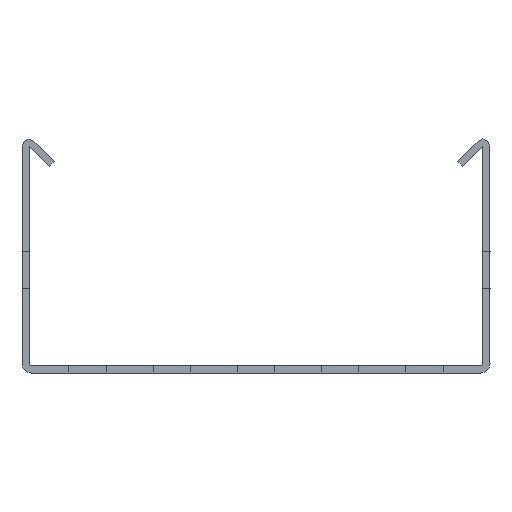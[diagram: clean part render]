
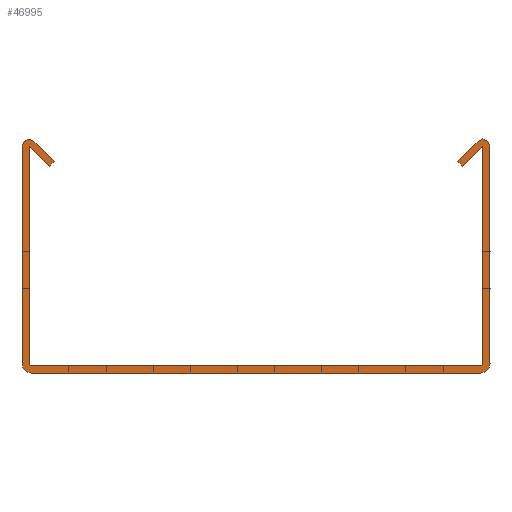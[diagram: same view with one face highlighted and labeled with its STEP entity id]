
A CAD part, front view. The second image highlights one B-rep face of the part: STEP entity #46995.
In plain terms, the highlighted planar face has unit normal (0, -1, 0).
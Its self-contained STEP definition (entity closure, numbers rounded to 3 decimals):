
#1489=CIRCLE('',#49616,0.5);
#2261=CIRCLE('',#50390,0.5);
#2439=CIRCLE('',#50573,1.5);
#2617=CIRCLE('',#50753,2.);
#3389=CIRCLE('',#51527,2.);
#3567=CIRCLE('',#51707,1.5);
#4868=FACE_OUTER_BOUND('',#8407,.T.);
#8407=EDGE_LOOP('',(#36805,#36806,#36807,#36808,#36809,#36810,#36811,#36812,
#36813,#36814,#36815,#36816,#36817,#36818,#36819,#36820,#36821,#36822));
#10831=LINE('',#68612,#15496);
#10835=LINE('',#68620,#15500);
#10838=LINE('',#68626,#15503);
#10841=LINE('',#68632,#15506);
#11021=LINE('',#69348,#15686);
#11773=LINE('',#72396,#16438);
#11952=LINE('',#73106,#16617);
#11955=LINE('',#73112,#16620);
#11958=LINE('',#73118,#16623);
#11962=LINE('',#73130,#16627);
#12142=LINE('',#73846,#16807);
#12894=LINE('',#76894,#17559);
#15496=VECTOR('',#54544,10.);
#15500=VECTOR('',#54550,10.);
#15503=VECTOR('',#54555,10.);
#15506=VECTOR('',#54560,10.);
#15686=VECTOR('',#55100,10.);
#16438=VECTOR('',#57400,10.);
#16617=VECTOR('',#57933,10.);
#16620=VECTOR('',#57938,10.);
#16623=VECTOR('',#57943,10.);
#16627=VECTOR('',#57955,10.);
#16807=VECTOR('',#58495,10.);
#17559=VECTOR('',#60795,10.);
#20162=VERTEX_POINT('',#68610);
#20163=VERTEX_POINT('',#68611);
#20166=VERTEX_POINT('',#68619);
#20168=VERTEX_POINT('',#68625);
#20170=VERTEX_POINT('',#68631);
#20524=VERTEX_POINT('',#69341);
#20526=VERTEX_POINT('',#69347);
#22046=VERTEX_POINT('',#72389);
#22048=VERTEX_POINT('',#72395);
#22402=VERTEX_POINT('',#73105);
#22404=VERTEX_POINT('',#73111);
#22406=VERTEX_POINT('',#73117);
#22408=VERTEX_POINT('',#73123);
#22410=VERTEX_POINT('',#73129);
#22764=VERTEX_POINT('',#73839);
#22766=VERTEX_POINT('',#73845);
#24286=VERTEX_POINT('',#76887);
#24288=VERTEX_POINT('',#76893);
#24945=EDGE_CURVE('',#20162,#20163,#10831,.T.);
#24949=EDGE_CURVE('',#20163,#20166,#10835,.T.);
#24952=EDGE_CURVE('',#20168,#20166,#10838,.T.);
#24955=EDGE_CURVE('',#20168,#20170,#10841,.T.);
#25310=EDGE_CURVE('',#20170,#20524,#1489,.T.);
#25313=EDGE_CURVE('',#20526,#20524,#11021,.T.);
#26834=EDGE_CURVE('',#20526,#22046,#2261,.T.);
#26837=EDGE_CURVE('',#22048,#22046,#11773,.T.);
#27192=EDGE_CURVE('',#22048,#22402,#11952,.T.);
#27195=EDGE_CURVE('',#22404,#22402,#11955,.T.);
#27198=EDGE_CURVE('',#22406,#22404,#11958,.T.);
#27201=EDGE_CURVE('',#22408,#22406,#2439,.T.);
#27204=EDGE_CURVE('',#22408,#22410,#11962,.T.);
#27559=EDGE_CURVE('',#22764,#22410,#2617,.T.);
#27562=EDGE_CURVE('',#22764,#22766,#12142,.T.);
#29083=EDGE_CURVE('',#24286,#22766,#3389,.T.);
#29086=EDGE_CURVE('',#24288,#24286,#12894,.T.);
#29441=EDGE_CURVE('',#20162,#24288,#3567,.T.);
#36805=ORIENTED_EDGE('',*,*,#29441,.F.);
#36806=ORIENTED_EDGE('',*,*,#24945,.T.);
#36807=ORIENTED_EDGE('',*,*,#24949,.T.);
#36808=ORIENTED_EDGE('',*,*,#24952,.F.);
#36809=ORIENTED_EDGE('',*,*,#24955,.T.);
#36810=ORIENTED_EDGE('',*,*,#25310,.T.);
#36811=ORIENTED_EDGE('',*,*,#25313,.F.);
#36812=ORIENTED_EDGE('',*,*,#26834,.T.);
#36813=ORIENTED_EDGE('',*,*,#26837,.F.);
#36814=ORIENTED_EDGE('',*,*,#27192,.T.);
#36815=ORIENTED_EDGE('',*,*,#27195,.F.);
#36816=ORIENTED_EDGE('',*,*,#27198,.F.);
#36817=ORIENTED_EDGE('',*,*,#27201,.F.);
#36818=ORIENTED_EDGE('',*,*,#27204,.T.);
#36819=ORIENTED_EDGE('',*,*,#27559,.F.);
#36820=ORIENTED_EDGE('',*,*,#27562,.T.);
#36821=ORIENTED_EDGE('',*,*,#29083,.F.);
#36822=ORIENTED_EDGE('',*,*,#29086,.F.);
#45774=PLANE('',#51710);
#46995=ADVANCED_FACE('',(#4868),#45774,.F.);
#49616=AXIS2_PLACEMENT_3D('',#69342,#55093,#55094);
#50390=AXIS2_PLACEMENT_3D('',#72390,#57393,#57394);
#50573=AXIS2_PLACEMENT_3D('',#73124,#57948,#57949);
#50753=AXIS2_PLACEMENT_3D('',#73840,#58488,#58489);
#51527=AXIS2_PLACEMENT_3D('',#76888,#60788,#60789);
#51707=AXIS2_PLACEMENT_3D('',#77603,#61328,#61329);
#51710=AXIS2_PLACEMENT_3D('',#77606,#61334,#61335);
#54544=DIRECTION('',(-0.707,0.,-0.707));
#54550=DIRECTION('',(0.707,0.,-0.707));
#54555=DIRECTION('',(-0.707,0.,-0.707));
#54560=DIRECTION('',(0.,0.,-1.));
#55093=DIRECTION('center_axis',(0.,1.,0.));
#55094=DIRECTION('ref_axis',(1.,0.,0.));
#55100=DIRECTION('',(1.,0.,0.));
#57393=DIRECTION('center_axis',(0.,1.,0.));
#57394=DIRECTION('ref_axis',(0.,0.,-1.));
#57400=DIRECTION('',(0.,0.,-1.));
#57933=DIRECTION('',(0.707,0.,-0.707));
#57938=DIRECTION('',(-0.707,0.,-0.707));
#57943=DIRECTION('',(0.707,0.,-0.707));
#57948=DIRECTION('center_axis',(0.,1.,0.));
#57949=DIRECTION('ref_axis',(-1.,0.,0.));
#57955=DIRECTION('',(0.,0.,-1.));
#58488=DIRECTION('center_axis',(0.,1.,0.));
#58489=DIRECTION('ref_axis',(0.,0.,-1.));
#58495=DIRECTION('',(1.,0.,0.));
#60788=DIRECTION('center_axis',(0.,1.,0.));
#60789=DIRECTION('ref_axis',(1.,0.,0.));
#60795=DIRECTION('',(0.,0.,-1.));
#61328=DIRECTION('center_axis',(0.,1.,0.));
#61329=DIRECTION('ref_axis',(-0.707,0.,0.707));
#61334=DIRECTION('center_axis',(0.,1.,0.));
#61335=DIRECTION('ref_axis',(1.,0.,0.));
#68610=CARTESIAN_POINT('',(97.439,0.,49.561));
#68611=CARTESIAN_POINT('',(93.101,0.,45.222));
#68612=CARTESIAN_POINT('',(97.439,0.,49.561));
#68619=CARTESIAN_POINT('',(94.161,0.,44.161));
#68620=CARTESIAN_POINT('',(93.101,0.,45.222));
#68625=CARTESIAN_POINT('',(98.5,0.,48.5));
#68626=CARTESIAN_POINT('',(98.5,0.,48.5));
#68631=CARTESIAN_POINT('',(98.5,0.,2.));
#68632=CARTESIAN_POINT('',(98.5,0.,48.5));
#69341=CARTESIAN_POINT('',(98.,0.,1.5));
#69342=CARTESIAN_POINT('Origin',(98.,0.,2.));
#69347=CARTESIAN_POINT('',(2.,0.,1.5));
#69348=CARTESIAN_POINT('',(2.,0.,1.5));
#72389=CARTESIAN_POINT('',(1.5,0.,2.));
#72390=CARTESIAN_POINT('Origin',(2.,0.,2.));
#72395=CARTESIAN_POINT('',(1.5,0.,48.5));
#72396=CARTESIAN_POINT('',(1.5,0.,48.5));
#73105=CARTESIAN_POINT('',(5.839,0.,44.161));
#73106=CARTESIAN_POINT('',(1.5,0.,48.5));
#73111=CARTESIAN_POINT('',(6.899,0.,45.222));
#73112=CARTESIAN_POINT('',(6.899,0.,45.222));
#73117=CARTESIAN_POINT('',(2.561,0.,49.561));
#73118=CARTESIAN_POINT('',(2.561,0.,49.561));
#73123=CARTESIAN_POINT('',(0.,0.,48.5));
#73124=CARTESIAN_POINT('Origin',(1.5,0.,48.5));
#73129=CARTESIAN_POINT('',(0.,0.,2.));
#73130=CARTESIAN_POINT('',(0.,0.,48.5));
#73839=CARTESIAN_POINT('',(2.,0.,0.));
#73840=CARTESIAN_POINT('Origin',(2.,0.,2.));
#73845=CARTESIAN_POINT('',(98.,0.,0.));
#73846=CARTESIAN_POINT('',(2.,0.,0.));
#76887=CARTESIAN_POINT('',(100.,0.,2.));
#76888=CARTESIAN_POINT('Origin',(98.,0.,2.));
#76893=CARTESIAN_POINT('',(100.,0.,48.5));
#76894=CARTESIAN_POINT('',(100.,0.,48.5));
#77603=CARTESIAN_POINT('Origin',(98.5,0.,48.5));
#77606=CARTESIAN_POINT('Origin',(50.,0.,25.));
